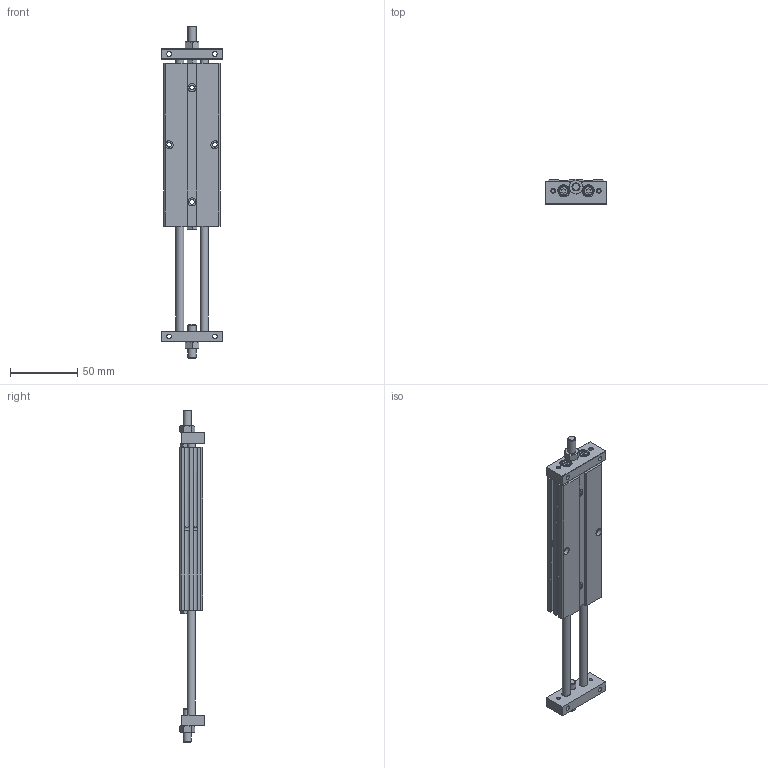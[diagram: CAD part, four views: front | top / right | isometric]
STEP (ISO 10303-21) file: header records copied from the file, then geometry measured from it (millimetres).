
FILE_DESCRIPTION((''),'2;1');
FILE_NAME('J:\3D電子目錄\氣缸\STU\STU\STU10\STU10x75.stp','2009-01-08T10:47:40',('EPM'),(''),'Autodesk Inventor 2008','Autodesk Inventor 2008','');
FILE_SCHEMA(('AUTOMOTIVE_DESIGN { 1 0 10303 214 1 1 1 1 }'));
Length unit declared in the file: millimetre
Products named in the file (1): STU10
Bounding box: 46 x 18.77 x 246.8 mm (x, y, z)
Volume: 92456 mm3; surface area: 31750.4 mm2
Topology: 1 solids, 1 shells, 266 faces, 648 edges, 414 vertices
Faces by surface type: plane 134, cone 52, bspline 50, cylinder 26, torus 4
Full cylindrical faces by diameter (mm): 2 x2, 6 x10, 7 x4, 8 x4, 12 x2, 13 x2
Entity records: 8194 total; most frequent: CARTESIAN_POINT 2607, DIRECTION 1074, ORIENTED_EDGE 1066, EDGE_CURVE 533, EDGE_LOOP 428, AXIS2_PLACEMENT_3D 402, VERTEX_POINT 389, VECTOR 270
